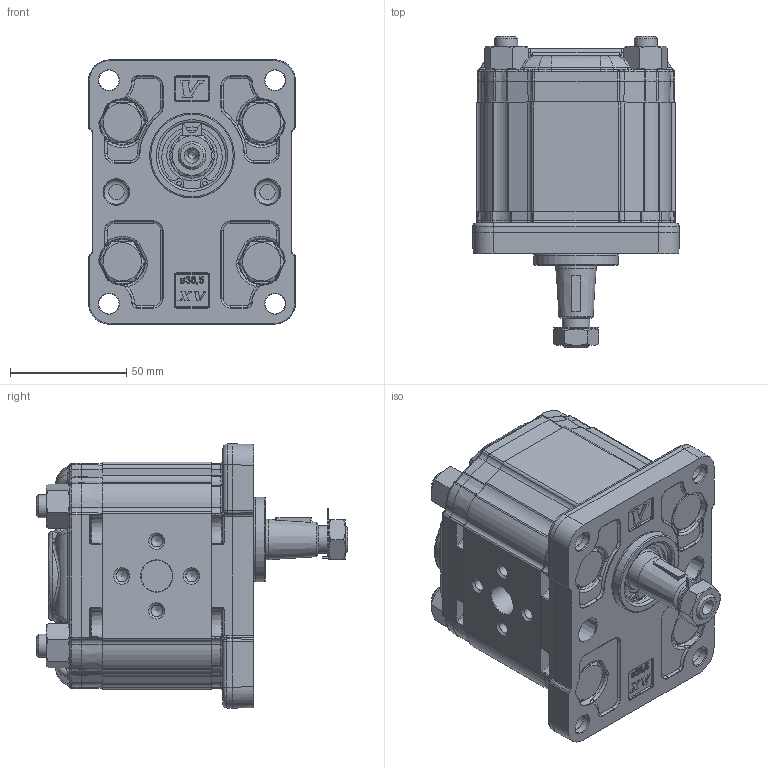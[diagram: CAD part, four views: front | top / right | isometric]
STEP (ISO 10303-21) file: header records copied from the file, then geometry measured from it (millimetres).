
FILE_DESCRIPTION(/* description */ ('Unknown'),/* implementation_level */ '2;1');
FILE_NAME(/* name */ 'X2R4101EOOF',/* time_stamp */ '2026-06-03T18:17:18+02:00',/* author */ ('Unknown'),/* organization */ ('Unknown'),/* preprocessor_version */ 'ST-DEVELOPER v16.7',/* originating_system */ 'Solid Edge',/* authorisation */ 'Unknown');
FILE_SCHEMA (('AUTOMOTIVE_DESIGN {1 0 10303 214 3 1 1}'));
Products named in the file (5): X2R4101EOOF; X2R01; 2E; X2OOH47; XR201-F
Assembly tree (4 placements, depth 2):
  X2R4101EOOF
    X2R01
    2E
    X2OOH47
    XR201-F
Bounding box: 89 x 133.95 x 113.7 mm (x, y, z)
Volume: 642601.9 mm3; surface area: 112561.8 mm2
Topology: 4 solids, 5 shells, 2308 faces, 5645 edges, 3427 vertices
Faces by surface type: cylinder 602, bspline 580, plane 565, torus 281, cone 253, sphere 27
Full cylindrical faces by diameter (mm): 2 x2, 4.917 x4, 5 x4, 8.796 x4, 8.798 x4, 10 x12, 10.5 x12, 11.5 x4, 12 x2, 12.5 x1, 13.5 x2, 16 x4, 17.42 x1, 17.48 x2, 18.724 x1, 20.595 x1, 21.741 x1, 25 x1, 25.834 x1, 28.56 x1, 28.57 x1, 28.8 x1, 30.5 x1, 36.5 x1
Entity records: 103715 total; most frequent: CARTESIAN_POINT 39488, ORIENTED_EDGE 10550, DIRECTION 8532, EDGE_CURVE 5275, AXIS2_PLACEMENT_3D 3395, VERTEX_POINT 3322, FACE_BOUND 2691, EDGE_LOOP 2681
